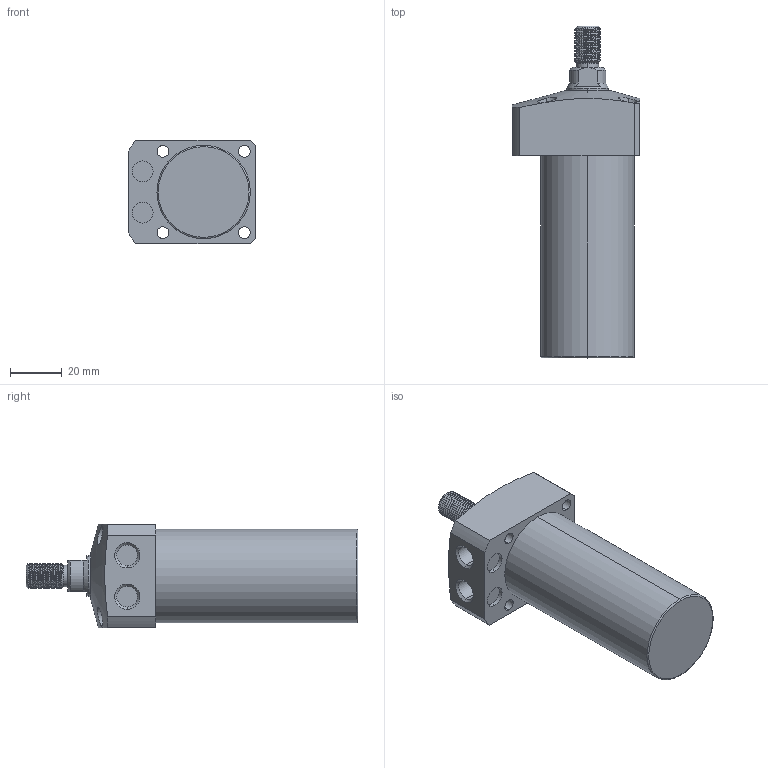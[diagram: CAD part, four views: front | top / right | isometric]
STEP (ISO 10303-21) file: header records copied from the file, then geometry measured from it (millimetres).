
FILE_DESCRIPTION (( 'STEP AP203' ), '1' );
FILE_NAME ('CLL-036CT-055.STEP', '2020-01-08T08:45:18', ( '' ), ( '' ), 'SwSTEP 2.0', 'SolidWorks 2015', '' );
FILE_SCHEMA (( 'CONFIG_CONTROL_DESIGN' ));
Length unit declared in the file: millimetre
Products named in the file (1): CLL-036CT-055
Bounding box: 49 x 128 x 40 mm (x, y, z)
Volume: 122292 mm3; surface area: 19484.3 mm2
Topology: 1 solids, 1 shells, 103 faces, 256 edges, 166 vertices
Faces by surface type: cylinder 61, plane 23, cone 15, torus 2, bspline 2
Entity records: 5012 total; most frequent: CARTESIAN_POINT 2616, ORIENTED_EDGE 512, DIRECTION 457, EDGE_CURVE 256, AXIS2_PLACEMENT_3D 184, VERTEX_POINT 166, EDGE_LOOP 122, ADVANCED_FACE 103
